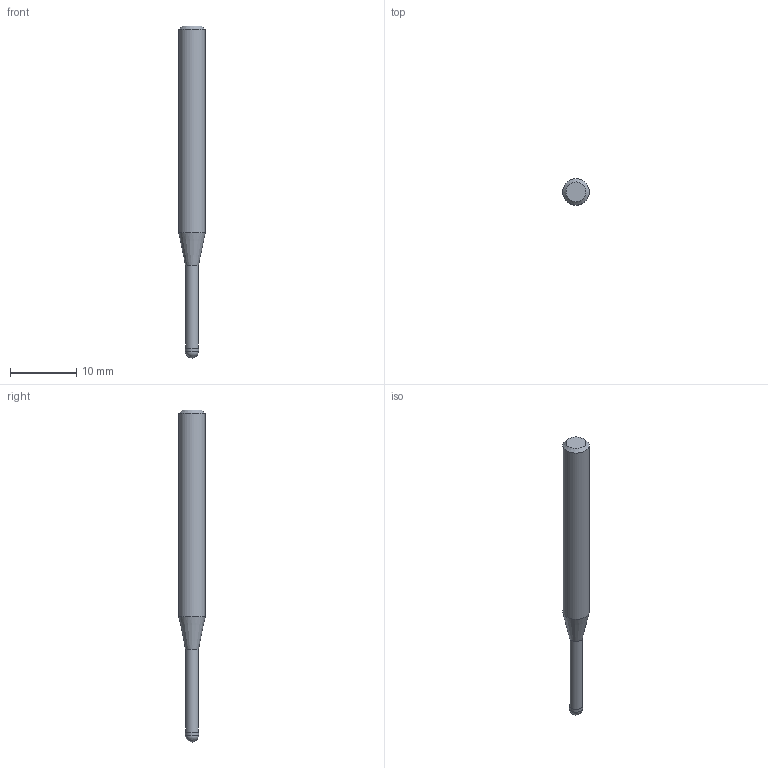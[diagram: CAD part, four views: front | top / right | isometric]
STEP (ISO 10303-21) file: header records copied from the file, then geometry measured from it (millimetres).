
FILE_DESCRIPTION((''),'2;1');
FILE_NAME('C:\Users\nsx150\AppData\Local\Temp\Mastercam 2021\AP8FW4WOPM\TEMP.step','2024-10-16T18:41:00',(''),(''),'STEP Write','Mastercam 2021 ... CNC Software, Inc.','');
FILE_SCHEMA(('AUTOMOTIVE_DESIGN'));
Length unit declared in the file: millimetre
Products named in the file (1): None
Bounding box: 4 x 4 x 50 mm (x, y, z)
Volume: 465.6 mm3; surface area: 538 mm2
Topology: 2 solids, 2 shells, 9 faces, 14 edges, 8 vertices
Faces by surface type: plane 3, cylinder 3, cone 2, sphere 1
Full cylindrical faces by diameter (mm): 1.94 x1, 2 x1, 4 x1
Entity records: 211 total; most frequent: DIRECTION 36, CARTESIAN_POINT 25, AXIS2_PLACEMENT_3D 18, ORIENTED_EDGE 14, EDGE_LOOP 14, STYLED_ITEM 12, ADVANCED_FACE 9, FACE_BOUND 8
